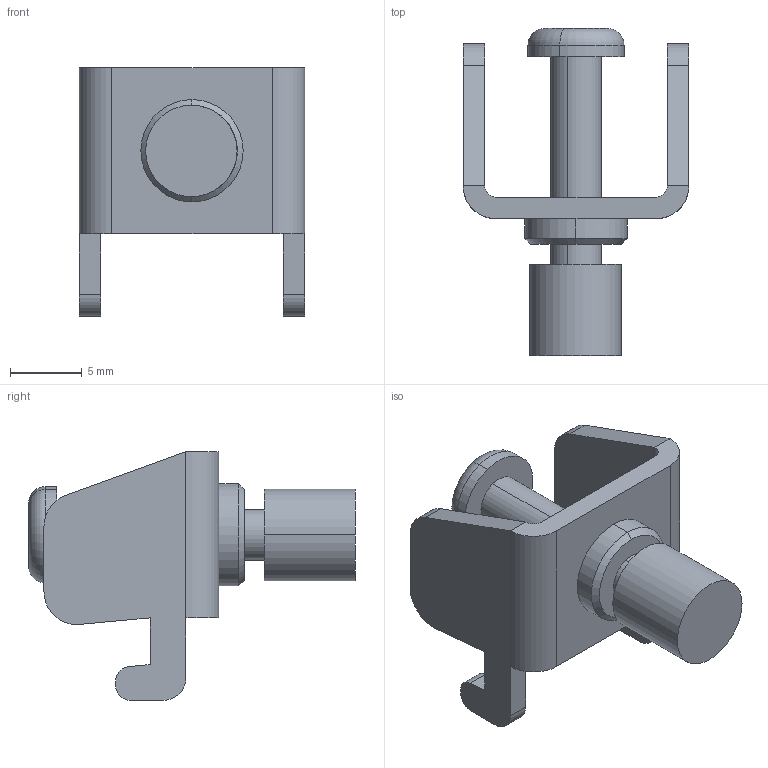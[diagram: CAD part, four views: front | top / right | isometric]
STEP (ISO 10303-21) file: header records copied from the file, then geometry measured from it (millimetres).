
FILE_DESCRIPTION (( 'STEP AP203' ), '1' );
FILE_NAME ('HWMCLP30-34.STEP', '2013-09-06T12:38:48', ( 'Network Administration' ), ( 'Red Lion Controls Inc.' ), 'SwSTEP 2.0', 'SolidWorks 2013', '' );
FILE_SCHEMA (( 'CONFIG_CONTROL_DESIGN' ));
Length unit declared in the file: millimetre
Products named in the file (4): HWM05084_REV-D_PANEL MOUNT BRACKET; HWM05085_REV-A_PANEL MOUNT FOOT; HWMCLP30-34; HWSMEP24
Assembly tree (3 placements, depth 2):
  HWMCLP30-34
    HWM05084_REV-D_PANEL MOUNT BRACKET
    HWM05085_REV-A_PANEL MOUNT FOOT
    HWSMEP24
Bounding box: 15.7 x 22.72 x 17.27 mm (x, y, z)
Volume: 1078 mm3; surface area: 1728.2 mm2
Topology: 4 solids, 4 shells, 175 faces, 464 edges, 301 vertices
Faces by surface type: plane 127, cylinder 36, cone 10, torus 2
Entity records: 5770 total; most frequent: CARTESIAN_POINT 944, ORIENTED_EDGE 924, DIRECTION 906, EDGE_CURVE 462, VECTOR 380, LINE 380, VERTEX_POINT 301, AXIS2_PLACEMENT_3D 263
